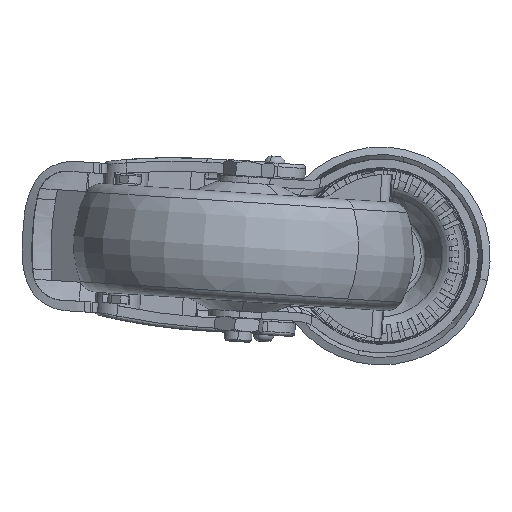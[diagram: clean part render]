
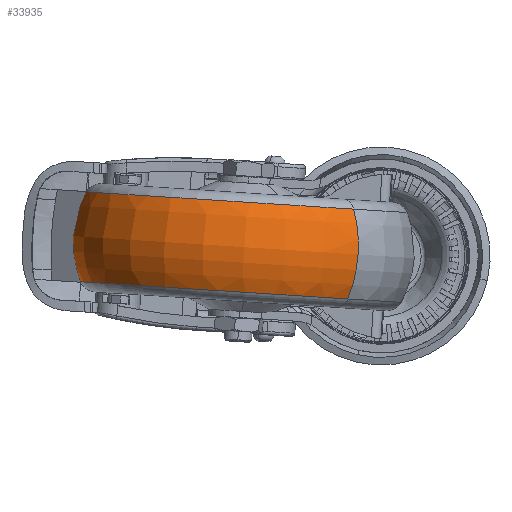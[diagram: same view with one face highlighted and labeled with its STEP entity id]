
A CAD part, front view. The second image highlights one B-rep face of the part: STEP entity #33935.
In plain terms, the highlighted toroidal (fillet/blend) face has major radius 22 mm and minor radius 28 mm.
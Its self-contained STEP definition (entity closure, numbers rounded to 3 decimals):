
#33833 = VERTEX_POINT ( 'NONE', #48748 ) ;
#33838 = VERTEX_POINT ( 'NONE', #48747 ) ;
#33839 = VERTEX_POINT ( 'NONE', #48741 ) ;
#33885 = EDGE_CURVE ( 'NONE', #33833, #33839, #48844, .T. ) ;
#33890 = EDGE_CURVE ( 'NONE', #33897, #33838, #48830, .T. ) ;
#33893 = EDGE_CURVE ( 'NONE', #33833, #33897, #48841, .T. ) ;
#33897 = VERTEX_POINT ( 'NONE', #48883 ) ;
#33935 = ADVANCED_FACE ( 'NONE', ( #48935 ), #48900, .T. ) ;
#33937 = EDGE_LOOP ( 'NONE', ( #33938, #33942, #33943, #33941 ) ) ;
#33938 = ORIENTED_EDGE ( 'NONE', *, *, #33885, .F. ) ;
#33941 = ORIENTED_EDGE ( 'NONE', *, *, #33960, .F. ) ;
#33942 = ORIENTED_EDGE ( 'NONE', *, *, #33893, .T. ) ;
#33943 = ORIENTED_EDGE ( 'NONE', *, *, #33890, .T. ) ;
#33960 = EDGE_CURVE ( 'NONE', #33839, #33838, #48924, .T. ) ;
#48741 = CARTESIAN_POINT ( 'NONE',  ( 160.352, -107.711, 123.203 ) ) ;
#48747 = CARTESIAN_POINT ( 'NONE',  ( 98.222, -37.945, 127.208 ) ) ;
#48748 = CARTESIAN_POINT ( 'NONE',  ( 162.036, -107.711, 149.324 ) ) ;
#48823 = DIRECTION ( 'NONE',  ( -0.745, -0.666, 0.048 ) ) ;
#48824 = CARTESIAN_POINT ( 'NONE',  ( 115.511, -56.414, 139.209 ) ) ;
#48825 = AXIS2_PLACEMENT_3D ( 'NONE', #48824, #48823, #48895 ) ;
#48830 = CIRCLE ( 'NONE', #48825, 28. ) ;
#48831 = AXIS2_PLACEMENT_3D ( 'NONE', #48894, #48888, #48887 ) ;
#48834 = DIRECTION ( 'NONE',  ( -0.667, 0.745, 0. ) ) ;
#48835 = DIRECTION ( 'NONE',  ( 0.745, 0.666, -0.048 ) ) ;
#48841 = CIRCLE ( 'NONE', #48831, 46.753 ) ;
#48842 = CARTESIAN_POINT ( 'NONE',  ( 144.747, -89.242, 137.324 ) ) ;
#48844 = CIRCLE ( 'NONE', #48849, 28. ) ;
#48849 = AXIS2_PLACEMENT_3D ( 'NONE', #48842, #48835, #48834 ) ;
#48883 = CARTESIAN_POINT ( 'NONE',  ( 99.906, -37.945, 153.329 ) ) ;
#48887 = DIRECTION ( 'NONE',  ( -0.664, 0.746, 0.043 ) ) ;
#48888 = DIRECTION ( 'NONE',  ( -0.064, 0., -0.998 ) ) ;
#48894 = CARTESIAN_POINT ( 'NONE',  ( 130.971, -72.828, 151.327 ) ) ;
#48895 = DIRECTION ( 'NONE',  ( 0.667, -0.745, 0. ) ) ;
#48900 = TOROIDAL_SURFACE ( 'NONE', #48930, 22., 28. ) ;
#48923 = DIRECTION ( 'NONE',  ( -0.064, 0., -0.998 ) ) ;
#48924 = CIRCLE ( 'NONE', #48965, 46.753 ) ;
#48929 = CARTESIAN_POINT ( 'NONE',  ( 130.129, -72.828, 138.266 ) ) ;
#48930 = AXIS2_PLACEMENT_3D ( 'NONE', #48929, #48923, #48987 ) ;
#48935 = FACE_OUTER_BOUND ( 'NONE', #33937, .T. ) ;
#48963 = DIRECTION ( 'NONE',  ( -0.664, 0.746, 0.043 ) ) ;
#48964 = DIRECTION ( 'NONE',  ( -0.064, 0., -0.998 ) ) ;
#48965 = AXIS2_PLACEMENT_3D ( 'NONE', #48972, #48964, #48963 ) ;
#48972 = CARTESIAN_POINT ( 'NONE',  ( 129.287, -72.828, 125.206 ) ) ;
#48987 = DIRECTION ( 'NONE',  ( -0.664, 0.746, 0.043 ) ) ;
